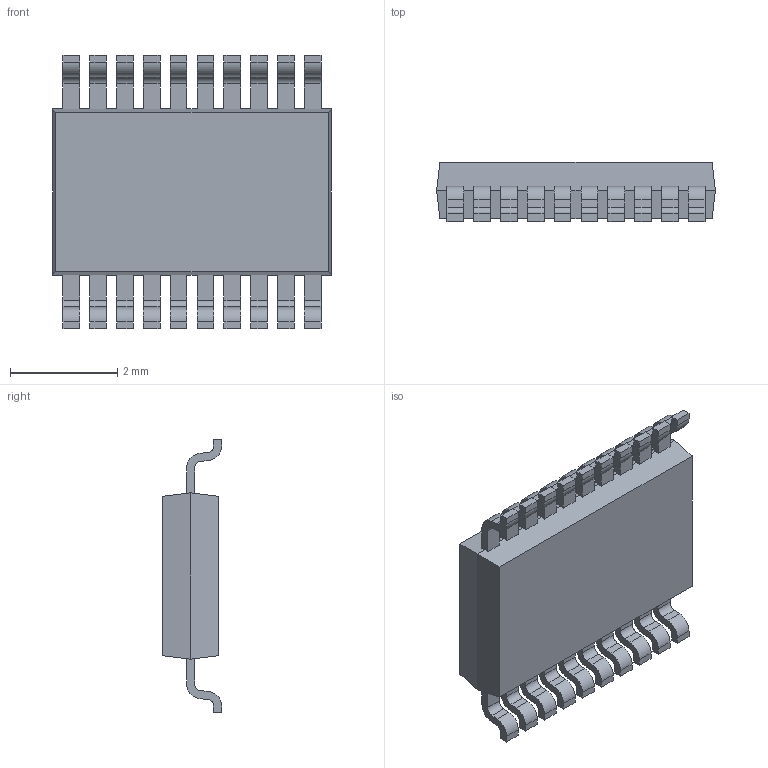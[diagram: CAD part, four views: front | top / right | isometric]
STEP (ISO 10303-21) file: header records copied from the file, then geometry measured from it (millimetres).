
FILE_DESCRIPTION (( 'STEP AP214' ), '1' );
FILE_NAME ('TPS48111LQDGXRQ1.STEP', '2024-06-10T09:16:13', ( '' ), ( '' ), 'SwSTEP 2.0', 'SolidWorks 2023', '' );
FILE_SCHEMA (( 'AUTOMOTIVE_DESIGN' ));
Length unit declared in the file: millimetre
Products named in the file (1): TPS48111LQDGXRQ1
Bounding box: 5.2 x 1.1 x 5.1 mm (x, y, z)
Volume: 17.6 mm3; surface area: 71.9 mm2
Topology: 1 solids, 1 shells, 273 faces, 806 edges, 536 vertices
Faces by surface type: plane 191, cylinder 82
Entity records: 9238 total; most frequent: CARTESIAN_POINT 1616, ORIENTED_EDGE 1612, DIRECTION 1518, EDGE_CURVE 806, VECTOR 642, LINE 642, VERTEX_POINT 536, AXIS2_PLACEMENT_3D 438
